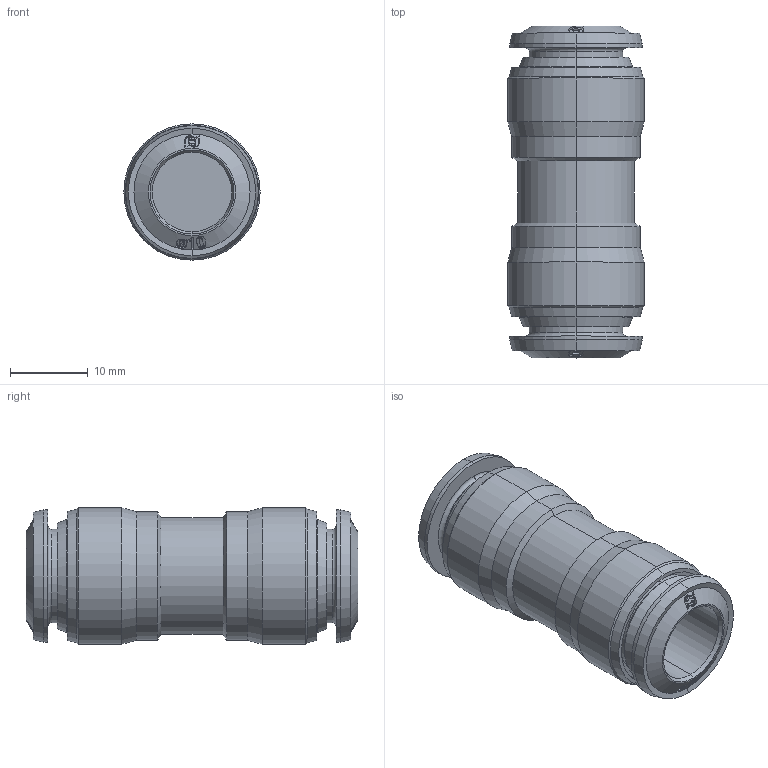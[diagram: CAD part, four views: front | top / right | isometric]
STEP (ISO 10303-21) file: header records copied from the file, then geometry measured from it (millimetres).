
FILE_DESCRIPTION (( 'STEP AP214' ), '1' );
FILE_NAME ('5004000006.step', '2012-10-01T16:42:41', ( '' ), ( '' ), 'SwSTEP 2.0', 'SolidWorks 2012', '' );
FILE_SCHEMA (( 'AUTOMOTIVE_DESIGN' ));
Length unit declared in the file: millimetre
Products named in the file (1): 5004000006
Bounding box: 17.5 x 42.6 x 17.5 mm (x, y, z)
Volume: 6891.7 mm3; surface area: 4542.2 mm2
Topology: 1 solids, 3 shells, 240 faces, 576 edges, 364 vertices
Faces by surface type: bspline 108, cone 64, cylinder 42, plane 18, torus 8
Entity records: 16046 total; most frequent: CARTESIAN_POINT 8685, ORIENTED_EDGE 1152, DIRECTION 634, EDGE_CURVE 576, VERTEX_POINT 364, B_SPLINE_CURVE_WITH_KNOTS 344, AXIS2_PLACEMENT_3D 269, EDGE_LOOP 266
